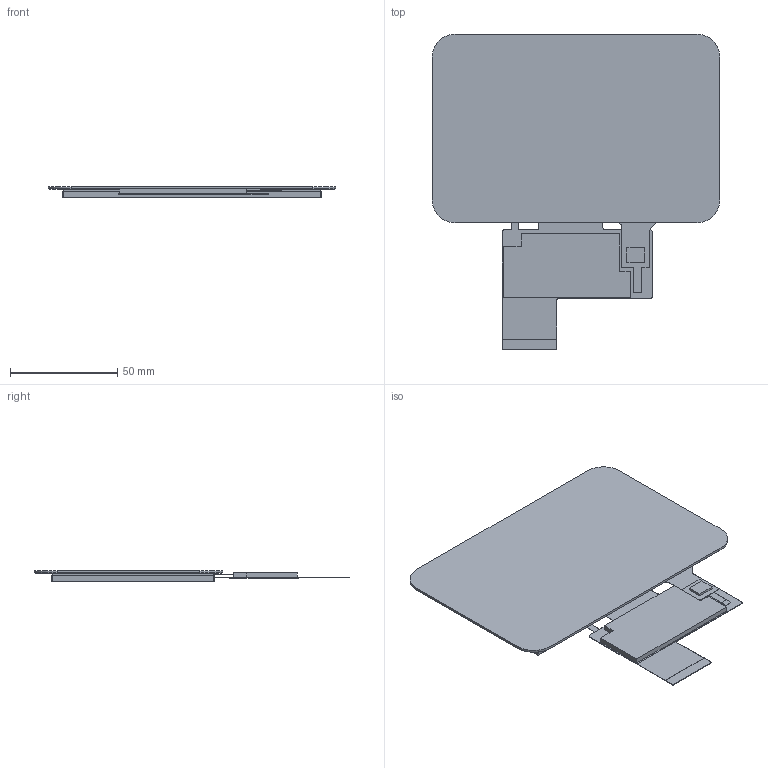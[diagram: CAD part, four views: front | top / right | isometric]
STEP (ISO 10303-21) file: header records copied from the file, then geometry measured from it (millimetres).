
FILE_DESCRIPTION((''),'2;1');
FILE_NAME('PRT0001','2024-11-21T',('Administrator'),(''),'PRO/ENGINEER BY PARAMETRIC TECHNOLOGY CORPORATION, 2008380','PRO/ENGINEER BY PARAMETRIC TECHNOLOGY CORPORATION, 2008380','');
FILE_SCHEMA(('CONFIG_CONTROL_DESIGN'));
Length unit declared in the file: millimetre
Products named in the file (1): PRT0001
Bounding box: 134 x 147.2 x 5.05 mm (x, y, z)
Volume: 53774.9 mm3; surface area: 33476.8 mm2
Topology: 1 solids, 1 shells, 123 faces, 458 edges, 406 vertices
Faces by surface type: plane 91, cylinder 32
Entity records: 5223 total; most frequent: CARTESIAN_POINT 821, DIRECTION 795, ORIENTED_EDGE 690, VECTOR 365, LINE 365, EDGE_CURVE 345, VERTEX_POINT 230, AXIS2_PLACEMENT_3D 215
